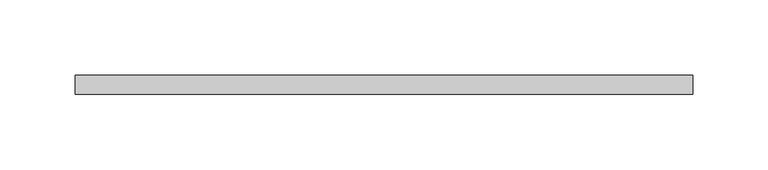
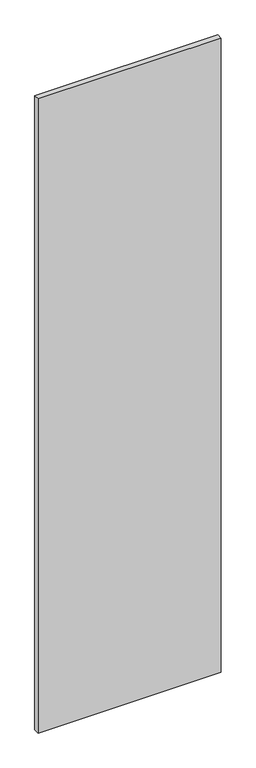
"""IFC4 building model written with IfcOpenShell, lengths in millimetres: proxy geometry, КНАУФ-Суперлист : КНАУФ-Суперлист."""

from ifc_helpers import new_model, si_unit, origin, origin_with_axes, place, context, project, spatial, polyline, outline, extrude, source, transform, mapped, element, save


def generic_models_85a3ba65(model_context):
    return source(origin(), model_context, "Body", "SweptSolid", [
        extrude(outline(polyline([(205.0, 0.0), (205.0, -12.5), (-205.0, -12.5), (-205.0, 0.0), (205.0, 0.0)])), origin_with_axes(), (0.0, 0.0, 1.0), 1500.0),
    ])


if __name__ == "__main__":
    model = new_model("IFC4")
    model_context = context("Model", 3, world=origin())
    ifc_project = project(units=[si_unit("LENGTHUNIT", "METRE", prefix="MILLI")], contexts=[model_context])
    site = spatial("IfcSite", under=ifc_project)
    building = spatial("IfcBuilding", under=site)
    placement = place(None, origin())
    generic_models_shape = generic_models_85a3ba65(model_context)
    element("IfcBuildingElementProxy", 1, Name="КНАУФ-Суперлист : КНАУФ-Суперлист", ObjectType="КНАУФ-Суперлист : КНАУФ-Суперлист", at=placement, inside=building, context=model_context, shape_type="MappedRepresentation", body=[
        mapped(generic_models_shape, transform((0.0, 0.0, 0.0), x_axis=(1.0, 0.0, 0.0), y_axis=(0.0, 1.0, 0.0), z_axis=(0.0, 0.0, 1.0))),
    ])
    save(model, "model.ifc")
